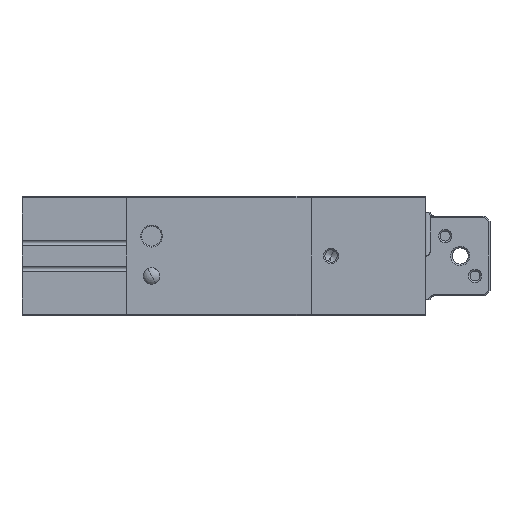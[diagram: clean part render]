
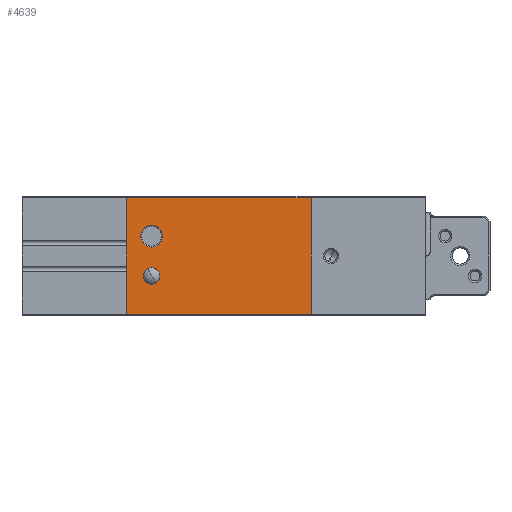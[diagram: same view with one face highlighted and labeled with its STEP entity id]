
A CAD part, front view. The second image highlights one B-rep face of the part: STEP entity #4639.
In plain terms, the highlighted planar face has unit normal (0, -1, 0).
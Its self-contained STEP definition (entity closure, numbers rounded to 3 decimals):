
#3374=CARTESIAN_POINT('Vertex',(91.171,-15.,11.991)) ;
#3672=CARTESIAN_POINT('Vertex',(91.171,-15.,-11.409)) ;
#3879=CARTESIAN_POINT('Line Origine',(91.171,-15.,0.291)) ;
#4064=CARTESIAN_POINT('Vertex',(54.191,-15.,11.991)) ;
#4067=CARTESIAN_POINT('Line Origine',(72.681,-15.,11.991)) ;
#4403=CARTESIAN_POINT('Line Origine',(72.681,-15.,-11.409)) ;
#4407=CARTESIAN_POINT('Vertex',(54.191,-15.,-11.409)) ;
#4559=CARTESIAN_POINT('Axis2P3D Location',(54.181,-15.,-11.709)) ;
#4564=CARTESIAN_POINT('Line Origine',(54.191,-15.,0.291)) ;
#4575=CARTESIAN_POINT('Axis2P3D Location',(59.181,-15.,4.291)) ;
#4579=CARTESIAN_POINT('Vertex',(56.981,-15.,4.291)) ;
#4581=CARTESIAN_POINT('Vertex',(61.381,-15.,4.291)) ;
#4584=CARTESIAN_POINT('Axis2P3D Location',(59.181,-15.,4.291)) ;
#4594=CARTESIAN_POINT('Control Point',(59.972,-15.,-5.157)) ;
#4595=CARTESIAN_POINT('Control Point',(60.157,-15.,-5.056)) ;
#4596=CARTESIAN_POINT('Control Point',(60.325,-15.,-4.926)) ;
#4597=CARTESIAN_POINT('Control Point',(60.471,-15.,-4.769)) ;
#4598=CARTESIAN_POINT('Control Point',(60.671,-15.,-4.472)) ;
#4599=CARTESIAN_POINT('Control Point',(60.784,-15.,-4.135)) ;
#4600=CARTESIAN_POINT('Control Point',(60.815,-15.,-3.995)) ;
#4601=CARTESIAN_POINT('Control Point',(60.831,-15.,-3.852)) ;
#4602=CARTESIAN_POINT('Control Point',(60.831,-15.,-3.709)) ;
#4603=CARTESIAN_POINT('Vertex',(59.972,-15.,-5.157)) ;
#4605=CARTESIAN_POINT('Vertex',(60.831,-15.,-3.709)) ;
#4608=CARTESIAN_POINT('Axis2P3D Location',(59.181,-15.,-3.709)) ;
#4612=CARTESIAN_POINT('Vertex',(57.531,-15.,-3.709)) ;
#4616=CARTESIAN_POINT('Control Point',(58.39,-15.,-2.261)) ;
#4617=CARTESIAN_POINT('Control Point',(58.205,-15.,-2.362)) ;
#4618=CARTESIAN_POINT('Control Point',(58.037,-15.,-2.492)) ;
#4619=CARTESIAN_POINT('Control Point',(57.89,-15.,-2.648)) ;
#4620=CARTESIAN_POINT('Control Point',(57.691,-15.,-2.945)) ;
#4621=CARTESIAN_POINT('Control Point',(57.577,-15.,-3.282)) ;
#4622=CARTESIAN_POINT('Control Point',(57.546,-15.,-3.423)) ;
#4623=CARTESIAN_POINT('Control Point',(57.531,-15.,-3.566)) ;
#4624=CARTESIAN_POINT('Control Point',(57.531,-15.,-3.709)) ;
#4625=CARTESIAN_POINT('Vertex',(58.39,-15.,-2.261)) ;
#4628=CARTESIAN_POINT('Axis2P3D Location',(59.181,-15.,-3.709)) ;
#3880=DIRECTION('Vector Direction',(0.,0.,-1.)) ;
#4068=DIRECTION('Vector Direction',(1.,0.,0.)) ;
#4404=DIRECTION('Vector Direction',(-1.,0.,0.)) ;
#4560=DIRECTION('Axis2P3D Direction',(0.,1.,0.)) ;
#4561=DIRECTION('Axis2P3D XDirection',(0.,0.,1.)) ;
#4565=DIRECTION('Vector Direction',(0.,0.,1.)) ;
#4576=DIRECTION('Axis2P3D Direction',(0.,1.,0.)) ;
#4585=DIRECTION('Axis2P3D Direction',(0.,1.,0.)) ;
#4609=DIRECTION('Axis2P3D Direction',(0.,1.,0.)) ;
#4629=DIRECTION('Axis2P3D Direction',(0.,1.,0.)) ;
#4562=AXIS2_PLACEMENT_3D('Plane Axis2P3D',#4559,#4560,#4561) ;
#4577=AXIS2_PLACEMENT_3D('Circle Axis2P3D',#4575,#4576,$) ;
#4586=AXIS2_PLACEMENT_3D('Circle Axis2P3D',#4584,#4585,$) ;
#4610=AXIS2_PLACEMENT_3D('Circle Axis2P3D',#4608,#4609,$) ;
#4630=AXIS2_PLACEMENT_3D('Circle Axis2P3D',#4628,#4629,$) ;
#4570=ORIENTED_EDGE('',*,*,#3883,.F.) ;
#4571=ORIENTED_EDGE('',*,*,#4071,.F.) ;
#4572=ORIENTED_EDGE('',*,*,#4568,.T.) ;
#4573=ORIENTED_EDGE('',*,*,#4409,.T.) ;
#4590=ORIENTED_EDGE('',*,*,#4583,.F.) ;
#4591=ORIENTED_EDGE('',*,*,#4588,.F.) ;
#4634=ORIENTED_EDGE('',*,*,#4607,.F.) ;
#4635=ORIENTED_EDGE('',*,*,#4614,.F.) ;
#4636=ORIENTED_EDGE('',*,*,#4627,.F.) ;
#4637=ORIENTED_EDGE('',*,*,#4632,.F.) ;
#4592=FACE_BOUND('',#4589,.T.) ;
#4638=FACE_BOUND('',#4633,.T.) ;
#3881=VECTOR('Line Direction',#3880,1.) ;
#4069=VECTOR('Line Direction',#4068,1.) ;
#4405=VECTOR('Line Direction',#4404,1.) ;
#4566=VECTOR('Line Direction',#4565,1.) ;
#4639=ADVANCED_FACE('\X2\96F64EF651E04F554F53\X0\',(#4574,#4592,#4638),#4563,.F.) ;
#4593=B_SPLINE_CURVE_WITH_KNOTS('',5,(#4594,#4595,#4596,#4597,#4598,#4599,#4600,#4601,#4602),.UNSPECIFIED.,.F.,.U.,(6,3,6),(0.,1.488,2.499),.UNSPECIFIED.) ;
#4615=B_SPLINE_CURVE_WITH_KNOTS('',5,(#4616,#4617,#4618,#4619,#4620,#4621,#4622,#4623,#4624),.UNSPECIFIED.,.F.,.U.,(6,3,6),(0.,1.488,2.499),.UNSPECIFIED.) ;
#4578=CIRCLE('generated circle',#4577,2.2) ;
#4587=CIRCLE('generated circle',#4586,2.2) ;
#4611=CIRCLE('generated circle',#4610,1.65) ;
#4631=CIRCLE('generated circle',#4630,1.65) ;
#3883=EDGE_CURVE('',#3375,#3673,#3882,.T.) ;
#4071=EDGE_CURVE('',#4065,#3375,#4070,.T.) ;
#4409=EDGE_CURVE('',#4408,#3673,#4406,.F.) ;
#4568=EDGE_CURVE('',#4065,#4408,#4567,.F.) ;
#4583=EDGE_CURVE('',#4580,#4582,#4578,.F.) ;
#4588=EDGE_CURVE('',#4582,#4580,#4587,.F.) ;
#4607=EDGE_CURVE('',#4604,#4606,#4593,.T.) ;
#4614=EDGE_CURVE('',#4613,#4604,#4611,.F.) ;
#4627=EDGE_CURVE('',#4626,#4613,#4615,.T.) ;
#4632=EDGE_CURVE('',#4606,#4626,#4631,.F.) ;
#4569=EDGE_LOOP('',(#4570,#4571,#4572,#4573)) ;
#4589=EDGE_LOOP('',(#4590,#4591)) ;
#4633=EDGE_LOOP('',(#4634,#4635,#4636,#4637)) ;
#4574=FACE_OUTER_BOUND('',#4569,.T.) ;
#3882=LINE('Line',#3879,#3881) ;
#4070=LINE('Line',#4067,#4069) ;
#4406=LINE('Line',#4403,#4405) ;
#4567=LINE('Line',#4564,#4566) ;
#4563=PLANE('Plane',#4562) ;
#3375=VERTEX_POINT('',#3374) ;
#3673=VERTEX_POINT('',#3672) ;
#4065=VERTEX_POINT('',#4064) ;
#4408=VERTEX_POINT('',#4407) ;
#4580=VERTEX_POINT('',#4579) ;
#4582=VERTEX_POINT('',#4581) ;
#4604=VERTEX_POINT('',#4603) ;
#4606=VERTEX_POINT('',#4605) ;
#4613=VERTEX_POINT('',#4612) ;
#4626=VERTEX_POINT('',#4625) ;
